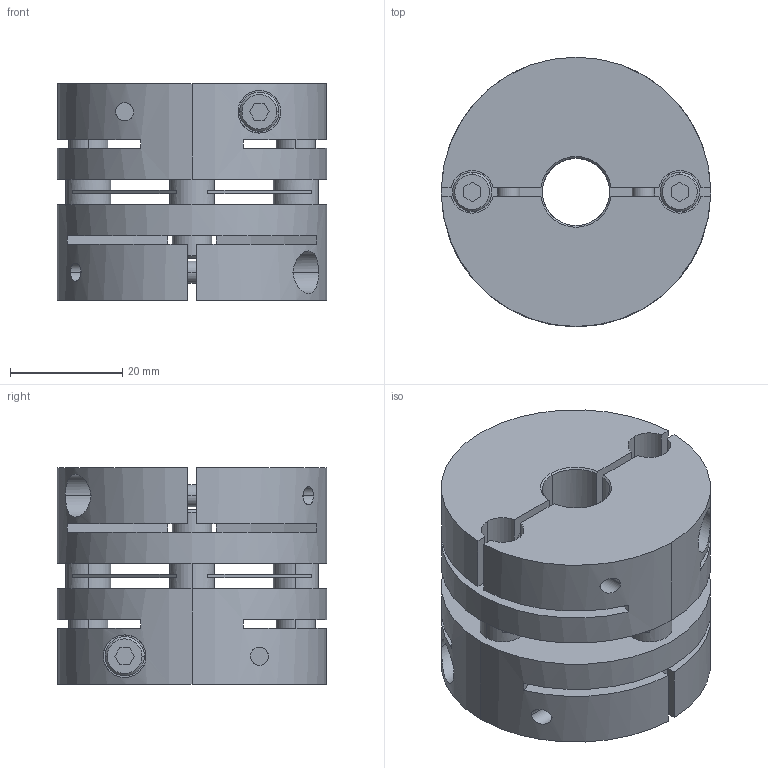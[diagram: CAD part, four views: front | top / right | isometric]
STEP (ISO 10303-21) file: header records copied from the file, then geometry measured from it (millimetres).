
FILE_DESCRIPTION((''),'2;1');
FILE_NAME('LAS-48C-12×12.stp','2011-08-09T16:35:44',(''),(''),'AutoCAD STEP 2000i','AutoCAD 2000i',', , ');
FILE_SCHEMA(('CONFIG_CONTROL_DESIGN'));
Length unit declared in the file: millimetre
Products named in the file (5): LAS-48C-12×12; 忣兜1; LA-4802-D12-1; LA-4802-D12; LAS48-ITA
Assembly tree (4 placements, depth 2):
  LAS-48C-12×12
    忣兜1
    LA-4802-D12-1
    LA-4802-D12
    LAS48-ITA
Bounding box: 48 x 48 x 38.6 mm (x, y, z)
Volume: 51743.6 mm3; surface area: 22738.6 mm2
Topology: 1 solids, 1 shells, 224 faces, 588 edges, 384 vertices
Faces by surface type: plane 112, cylinder 84, cone 28
Entity records: 7607 total; most frequent: CARTESIAN_POINT 1713, DIRECTION 1250, ORIENTED_EDGE 1176, EDGE_CURVE 588, AXIS2_PLACEMENT_3D 457, VERTEX_POINT 384, VECTOR 336, LINE 336
